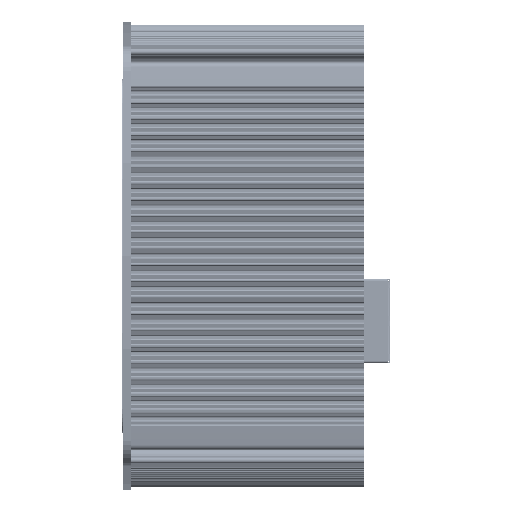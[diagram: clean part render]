
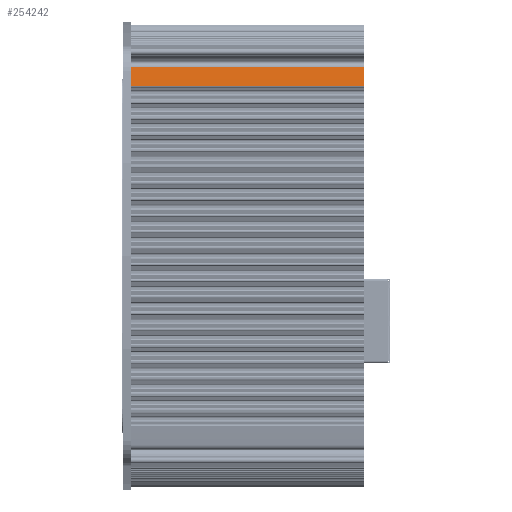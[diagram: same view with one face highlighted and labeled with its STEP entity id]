
A CAD part, left-side view. The second image highlights one B-rep face of the part: STEP entity #254242.
In plain terms, the highlighted cylindrical face has radius 200 mm (diameter 400 mm), a partial arc.
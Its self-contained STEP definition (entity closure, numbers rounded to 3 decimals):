
#2808 = CARTESIAN_POINT ( 'NONE',  ( -64.865, -46., 32.357 ) ) ;
#6559 = EDGE_CURVE ( 'NONE', #221829, #148244, #368593, .T. ) ;
#10129 = ORIENTED_EDGE ( 'NONE', *, *, #211870, .F. ) ;
#10215 = CARTESIAN_POINT ( 'NONE',  ( -64.23, -46., 36.02 ) ) ;
#21128 = LINE ( 'NONE', #140960, #296853 ) ;
#43013 = DIRECTION ( 'NONE',  ( 0., 0., 1. ) ) ;
#66157 = DIRECTION ( 'NONE',  ( 0., 1., 0. ) ) ;
#72469 = CYLINDRICAL_SURFACE ( 'NONE', #332263, 200. ) ;
#98520 = ORIENTED_EDGE ( 'NONE', *, *, #204417, .T. ) ;
#111535 = DIRECTION ( 'NONE',  ( 0., 1., 0. ) ) ;
#119448 = DIRECTION ( 'NONE',  ( 0., 1., 0. ) ) ;
#119696 = ORIENTED_EDGE ( 'NONE', *, *, #150187, .F. ) ;
#122734 = EDGE_LOOP ( 'NONE', ( #119696, #10129, #98520, #129712 ) ) ;
#129712 = ORIENTED_EDGE ( 'NONE', *, *, #6559, .T. ) ;
#129889 = CARTESIAN_POINT ( 'NONE',  ( -64.865, -1.8, 32.357 ) ) ;
#140960 = CARTESIAN_POINT ( 'NONE',  ( -64.865, -46., 32.357 ) ) ;
#142956 = VERTEX_POINT ( 'NONE', #2808 ) ;
#144946 = DIRECTION ( 'NONE',  ( 0., 0., 1. ) ) ;
#148244 = VERTEX_POINT ( 'NONE', #319407 ) ;
#148294 = CIRCLE ( 'NONE', #236113, 200. ) ;
#149161 = AXIS2_PLACEMENT_3D ( 'NONE', #307948, #217585, #156773 ) ;
#150187 = EDGE_CURVE ( 'NONE', #223673, #148244, #243190, .T. ) ;
#150561 = VECTOR ( 'NONE', #66157, 1000. ) ;
#156773 = DIRECTION ( 'NONE',  ( 0., 0., -1. ) ) ;
#204417 = EDGE_CURVE ( 'NONE', #142956, #221829, #148294, .T. ) ;
#211870 = EDGE_CURVE ( 'NONE', #142956, #223673, #21128, .T. ) ;
#217585 = DIRECTION ( 'NONE',  ( 0., 1., 0. ) ) ;
#221829 = VERTEX_POINT ( 'NONE', #10215 ) ;
#223673 = VERTEX_POINT ( 'NONE', #129889 ) ;
#223725 = DIRECTION ( 'NONE',  ( 0., 1., 0. ) ) ;
#236113 = AXIS2_PLACEMENT_3D ( 'NONE', #386596, #119448, #144946 ) ;
#243190 = CIRCLE ( 'NONE', #149161, 200. ) ;
#254242 = ADVANCED_FACE ( 'NONE', ( #278904 ), #72469, .T. ) ;
#278904 = FACE_OUTER_BOUND ( 'NONE', #122734, .T. ) ;
#296853 = VECTOR ( 'NONE', #111535, 1000. ) ;
#307948 = CARTESIAN_POINT ( 'NONE',  ( 132.5, -1.8, 0. ) ) ;
#319407 = CARTESIAN_POINT ( 'NONE',  ( -64.23, -1.8, 36.02 ) ) ;
#332263 = AXIS2_PLACEMENT_3D ( 'NONE', #339744, #223725, #43013 ) ;
#335306 = CARTESIAN_POINT ( 'NONE',  ( -64.23, -46., 36.02 ) ) ;
#339744 = CARTESIAN_POINT ( 'NONE',  ( 132.5, -46., 0. ) ) ;
#368593 = LINE ( 'NONE', #335306, #150561 ) ;
#386596 = CARTESIAN_POINT ( 'NONE',  ( 132.5, -46., 0. ) ) ;
